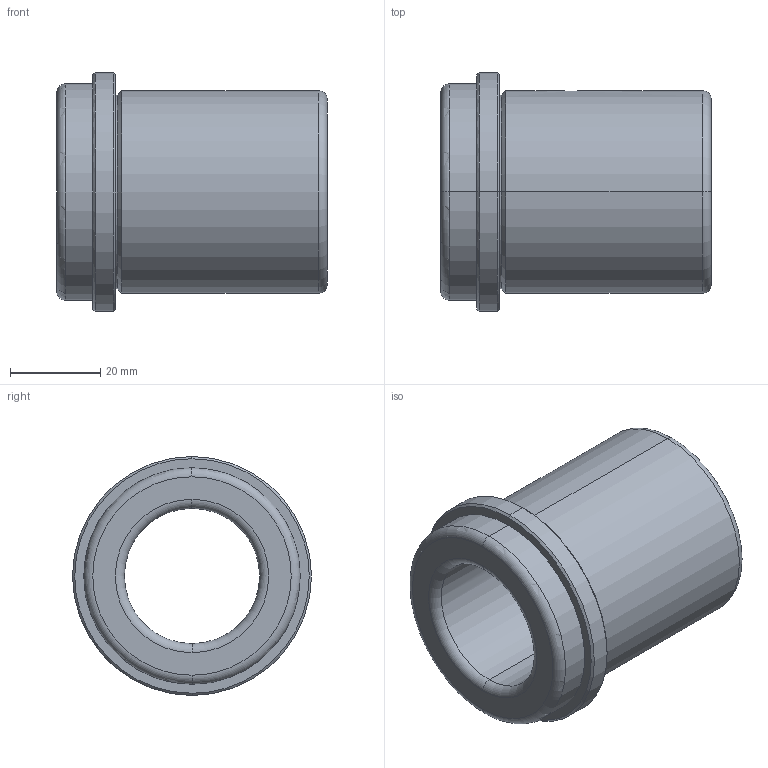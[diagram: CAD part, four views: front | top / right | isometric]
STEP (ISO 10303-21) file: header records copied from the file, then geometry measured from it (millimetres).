
FILE_DESCRIPTION(('CATIA V5 STEP Exchange'),'2;1');
FILE_NAME('C:\Users\Utente\Desktop\IO LAVORO\3D X SITO CF\X SITO\FAMO\FAMO-SF1-B30 x 60.stp','2021-01-06T17:12:32+00:00',('none'),('none'),'CATIA Version 5 Release 20 GA (IN-10)','CATIA V5 STEP AP203','none');
FILE_SCHEMA(('CONFIG_CONTROL_DESIGN'));
Length unit declared in the file: millimetre
Products named in the file (1): FAMO-SF1-B30 x 60
Bounding box: 60 x 53 x 53 mm (x, y, z)
Volume: 56847.3 mm3; surface area: 17290.9 mm2
Topology: 1 solids, 1 shells, 33 faces, 106 edges, 78 vertices
Faces by surface type: cylinder 12, torus 8, cone 8, plane 5
Entity records: 1438 total; most frequent: CARTESIAN_POINT 458, ORIENTED_EDGE 212, DIRECTION 158, AXIS2_PLACEMENT_3D 106, EDGE_CURVE 106, VERTEX_POINT 78, CIRCLE 72, EDGE_LOOP 40
